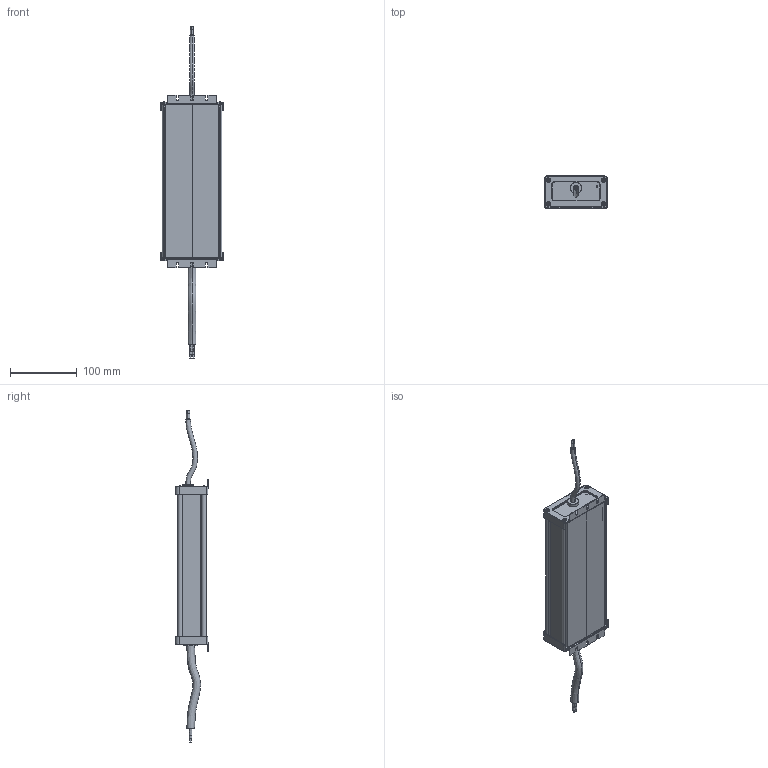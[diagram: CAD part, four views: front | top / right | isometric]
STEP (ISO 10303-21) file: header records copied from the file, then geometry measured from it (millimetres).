
FILE_DESCRIPTION(/* description */ (''),/* implementation_level */ '2;1');
FILE_NAME(/* name */ 'C:\D\Wind\IP 67\New folder\300w_ip67_MKT.stp',/* time_stamp */ '2018-11-28T17:56:30+08:00',/* author */ ('310043586'),/* organization */ (''),/* preprocessor_version */ 'ST-DEVELOPER v16.5',/* originating_system */ 'Autodesk Inventor 2017',/* authorisation */ '');
FILE_SCHEMA (('AUTOMOTIVE_DESIGN { 1 0 10303 214 3 1 1 }'));
Length unit declared in the file: inch
Products named in the file (1): 300w_ip67_MKT
Bounding box: 94.07 x 49.03 x 499.05 mm (x, y, z)
Volume: 132975 mm3; surface area: 173008.1 mm2
Topology: 1 solids, 10 shells, 929 faces, 2326 edges, 1494 vertices
Faces by surface type: plane 480, cylinder 259, torus 91, bspline 68, cone 23, sphere 8
Full cylindrical faces by diameter (mm): 1.7 x8, 2.1 x4, 2.3 x2, 2.4 x2, 2.5 x6, 3.5 x4, 5.6 x8, 5.9 x8, 6.2 x8, 7 x2, 8.5 x1, 11.5 x1, 11.6 x1, 12.992 x1, 16 x1, 16.5 x1, 17.5 x1, 20.992 x1, 21.992 x1
Entity records: 32797 total; most frequent: CARTESIAN_POINT 10103, DIRECTION 4530, ORIENTED_EDGE 4312, EDGE_CURVE 2154, AXIS2_PLACEMENT_3D 1654, VERTEX_POINT 1450, LINE 1222, VECTOR 1222
